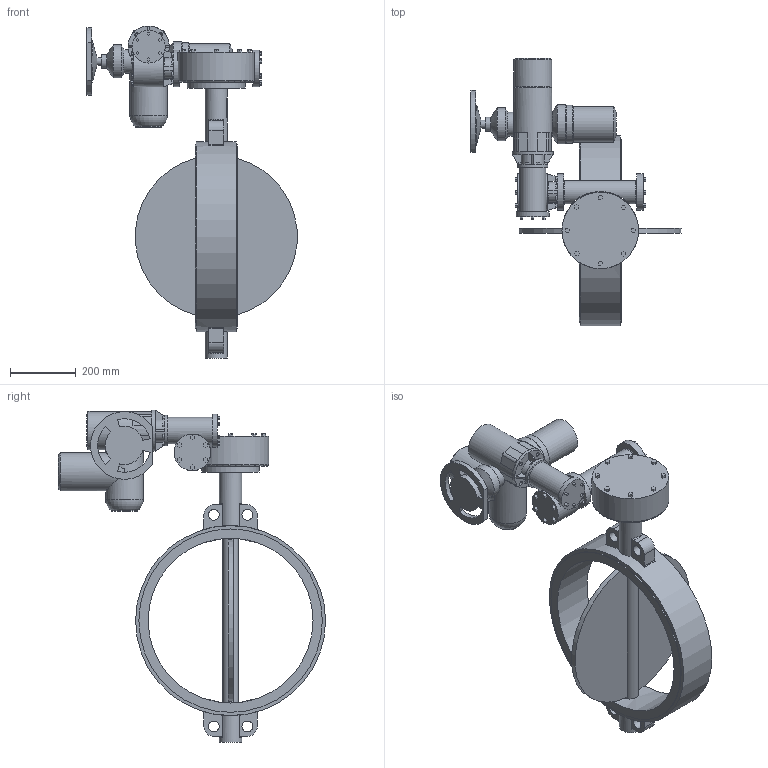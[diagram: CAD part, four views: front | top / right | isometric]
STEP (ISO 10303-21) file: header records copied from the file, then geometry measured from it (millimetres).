
FILE_DESCRIPTION(('STEP AP203'), '1');
FILE_NAME('青蜮铕 017W.YS_DN500_PN16_MT903.A07', '', ('UNSPECIFIED'), ('UNSPECIFIED'), 'ASCON STEP Converter 1.6', 'ASCON Math Kernel', '');
FILE_SCHEMA(('CONFIG_CONTROL_DESIGN'));
Length unit declared in the file: millimetre
Bounding box: 636.89 x 810 x 1006.5 mm (x, y, z)
Volume: 28279450.3 mm3; surface area: 1794248.6 mm2
Topology: 1 solids, 1 shells, 556 faces, 1416 edges, 921 vertices
Faces by surface type: plane 441, cylinder 86, cone 17, torus 10, bspline 2
Full cylindrical faces by diameter (mm): 8.5 x4, 12 x4, 13.835 x4, 18 x4, 24 x1, 33 x4, 42 x1, 48 x1, 61 x1, 66 x1, 68 x2, 71 x1, 72 x1, 80 x2, 92 x1, 100 x2, 108 x1, 111 x3, 114 x1, 115 x1, 116 x2, 119 x1, 125 x1, 175 x1, 232 x1, 500 x1, 556 x2, 576 x1
Entity records: 23431 total; most frequent: CARTESIAN_POINT 5676, ORIENTED_EDGE 2672, DIRECTION 2632, EDGE_CURVE 1336, LINE 1036, VECTOR 1036, VERTEX_POINT 917, AXIS2_PLACEMENT_3D 798
